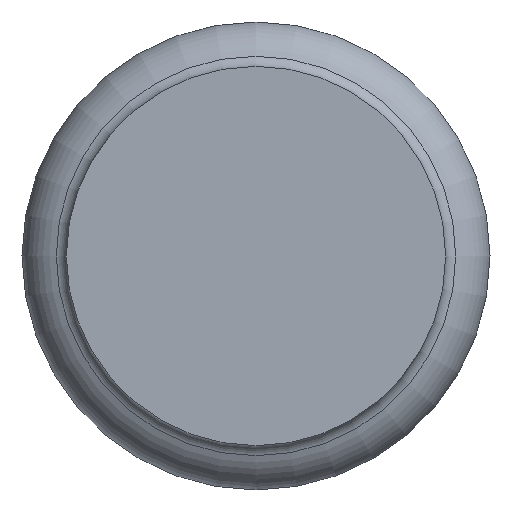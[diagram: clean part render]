
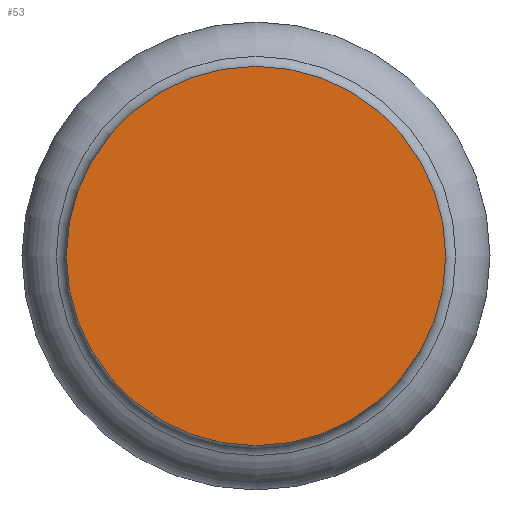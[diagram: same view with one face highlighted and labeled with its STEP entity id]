
A CAD part, front view. The second image highlights one B-rep face of the part: STEP entity #53.
In plain terms, the highlighted planar face has unit normal (0, -1, 0).
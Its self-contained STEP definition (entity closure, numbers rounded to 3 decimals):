
#53=ADVANCED_FACE('',(#84),#86,.F.);
#84=FACE_BOUND('',#85,.T.);
#85=EDGE_LOOP('',(#323));
#86=PLANE('',#87);
#87=AXIS2_PLACEMENT_3D('',#88,#89,#90);
#88=CARTESIAN_POINT('',(0.,0.,0.));
#89=DIRECTION('',(0.,1.,0.));
#90=DIRECTION('',(-1.,0.,0.));
#323=ORIENTED_EDGE('',*,*,#445,.F.);
#445=EDGE_CURVE('',#506,#506,#507,.T.);
#506=VERTEX_POINT('',#610);
#507=CIRCLE('',#611,12.6);
#610=CARTESIAN_POINT('',(0.,0.,12.6));
#611=AXIS2_PLACEMENT_3D('',#612,#613,#614);
#612=CARTESIAN_POINT('',(0.,0.,0.));
#613=DIRECTION('',(0.,1.,0.));
#614=DIRECTION('',(0.,0.,1.));
